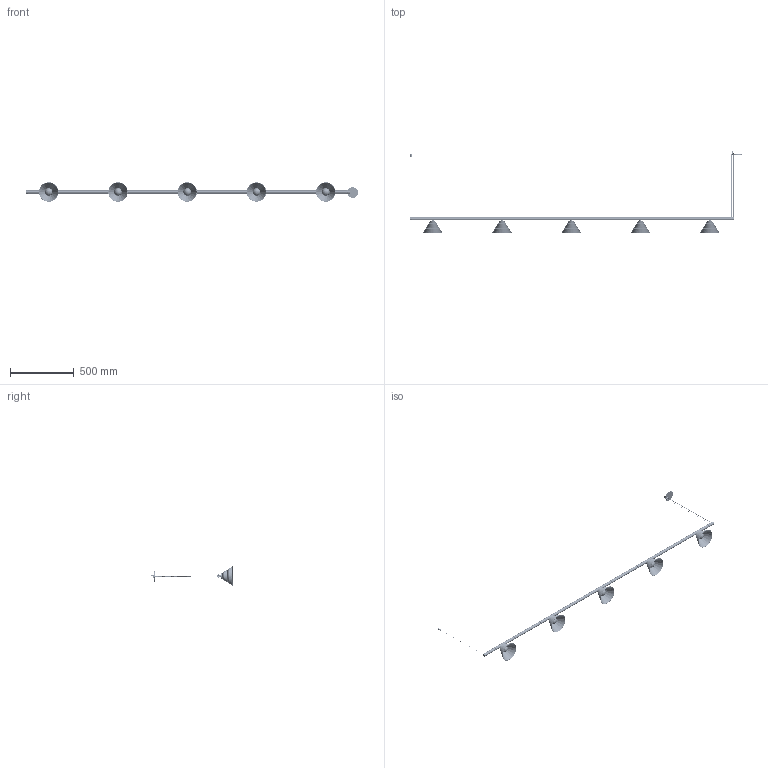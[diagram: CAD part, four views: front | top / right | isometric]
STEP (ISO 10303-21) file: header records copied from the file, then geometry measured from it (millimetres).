
FILE_DESCRIPTION (( 'STEP AP214' ), '1' );
FILE_NAME ('OVAL CONE 25 rec.STEP', '2024-03-15T13:24:43', ( '' ), ( '' ), 'SwSTEP 2.0', 'SolidWorks 2024', '' );
FILE_SCHEMA (( 'AUTOMOTIVE_DESIGN' ));
Length unit declared in the file: millimetre
Products named in the file (39): Ensamble Conector Jack Unión_Alimentación Colgante SCPRE; CJ02-BALO 60_Surface Ø60; CJ03-ENS-CAMPANA CONE(V1.1); Ensamble Tensor Micro_Con Cable; Floron U Muelle MICRO; Tapa Alimentación Perfil_SCPRE; eje cable colgante_M8 MICRO; 04-23DM03-Tope_Adaptador_1.3; OVAL CONE 25 rec; Tapa Unión-Final V5_V5.1 Colgante Union ; Taco cuerpo Micro; 04-23DM02-Adaptador_Tapa(V1.2)_24V; Tapon Tapa_2; Tija Tiny_Inyección ; Tuerca M8_Predeterminada; DISIPADOR ALUMINIO BALO Bola Ø60_para bola Ø60; Conector Molex Hembra 43020; Jack_Scpre; Rosca Bola_chapa galbanizada(inglass); Cable_VISUAL Alimentación Micro; CUI_DEVICES_PJ-005B_Ø2.5; Bola_Ø60xT3; Driver Entity EN1689; Difusor Negro Oval_0.1m; CJ01-ENS_Adaptador 24V_Proyector; 04-23DM05-CAMPANA CONE(V1.1)_1; Cable acero_0.5m; Difusor Negro Oval_0.42m; Tuerca Hembra Conector Jack; Tapa Micro V5_V5.1; Tapa Floron Emp. MICRO_Tapa empotarable; 04-23DM01-Adaptador_Caja_DM01.3; Prisionero STEAB M4x4_8; Ensamble Tapa + Tope_Con Conector; BOLA CRISTAL OPAL MATE Ø60 CON ROSCA_60; Taco Micro_Ø10 M10*5; Regulador Cable Ø0.6 (Bereta LT1007.0601); Ensamblaje FLORON EMP. MICRO; Perfil Micro V4_2.5m
Assembly tree (50 placements, depth 5):
  OVAL CONE 25 rec
    Perfil Micro V4_2.5m
    CJ03-ENS-CAMPANA CONE(V1.1)  x5
      04-23DM05-CAMPANA CONE(V1.1)_1
      CJ02-BALO 60_Surface Ø60
        DISIPADOR ALUMINIO BALO Bola Ø60_para bola Ø60
        BOLA CRISTAL OPAL MATE Ø60 CON ROSCA_60
          Bola_Ø60xT3
          Rosca Bola_chapa galbanizada(inglass)
      CJ01-ENS_Adaptador 24V_Proyector
        04-23DM01-Adaptador_Caja_DM01.3
        04-23DM02-Adaptador_Tapa(V1.2)_24V
        Conector Molex Hembra 43020
        Driver Entity EN1689
        04-23DM03-Tope_Adaptador_1.3  x2
        Tija Tiny_Inyección 
    Difusor Negro Oval_0.1m  x2
    Difusor Negro Oval_0.42m  x4
    Ensamble Tapa + Tope_Con Conector  x2
      Tapa Micro V5_V5.1
      CUI_DEVICES_PJ-005B_Ø2.5
      Tuerca Hembra Conector Jack
    Ensamble Tensor Micro_Con Cable  x2
      Taco Micro_Ø10 M10*5
      Taco cuerpo Micro
      Regulador Cable Ø0.6 (Bereta LT1007.0601)
      Cable acero_0.5m
    Tapa Unión-Final V5_V5.1 Colgante Union   x2
    Ensamble Conector Jack Unión_Alimentación Colgante SCPRE
      Cable_VISUAL Alimentación Micro
      Jack_Scpre
      Tapa Alimentación Perfil_SCPRE
      Prisionero STEAB M4x4_8
    Ensamblaje FLORON EMP. MICRO
      Tapa Floron Emp. MICRO_Tapa empotarable
      Floron U Muelle MICRO
      eje cable colgante_M8 MICRO
      Tuerca M8_Predeterminada
    Tapon Tapa_2
Bounding box: 2611.94 x 642.07 x 153.01 mm (x, y, z)
Volume: 1015993.5 mm3; surface area: 1133010.9 mm2
Topology: 88 solids, 90 shells, 9011 faces, 22118 edges, 13463 vertices
Faces by surface type: plane 2783, cylinder 2588, cone 2290, bspline 779, torus 427, sphere 144
Entity records: 114801 total; most frequent: CARTESIAN_POINT 59324, ORIENTED_EDGE 11796, DIRECTION 10993, EDGE_CURVE 5898, AXIS2_PLACEMENT_3D 4036, VERTEX_POINT 3676, LINE 2921, VECTOR 2921
